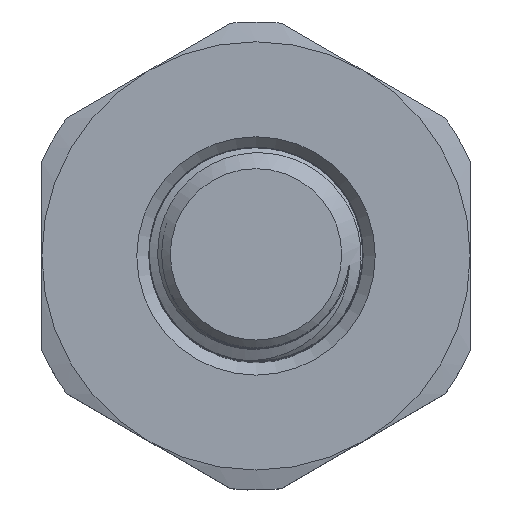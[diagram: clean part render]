
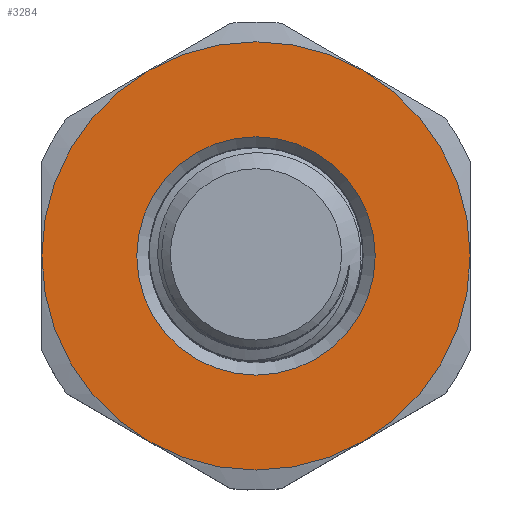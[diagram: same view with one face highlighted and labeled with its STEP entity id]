
A CAD part, top view. The second image highlights one B-rep face of the part: STEP entity #3284.
In plain terms, the highlighted planar face has unit normal (0, 0, 1).
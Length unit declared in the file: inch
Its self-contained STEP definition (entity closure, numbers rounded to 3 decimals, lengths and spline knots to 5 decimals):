
#68=FACE_BOUND('',#475,.T.);
#130=PLANE('',#3549);
#283=FACE_OUTER_BOUND('',#474,.T.);
#474=EDGE_LOOP('',(#2284,#2285,#2286,#2287,#2288,#2289,#2290));
#475=EDGE_LOOP('',(#2291));
#769=CIRCLE('',#3484,0.5);
#770=CIRCLE('',#3486,0.5);
#773=CIRCLE('',#3490,0.5);
#774=CIRCLE('',#3492,0.5);
#777=CIRCLE('',#3496,0.5);
#779=CIRCLE('',#3499,0.5);
#807=CIRCLE('',#3550,0.27825);
#1054=LINE('',#6013,#1146);
#1146=VECTOR('',#4049,0.3937);
#1290=VERTEX_POINT('',#5901);
#1294=VERTEX_POINT('',#5916);
#1296=VERTEX_POINT('',#5922);
#1297=VERTEX_POINT('',#5928);
#1299=VERTEX_POINT('',#5933);
#1303=VERTEX_POINT('',#5947);
#1305=VERTEX_POINT('',#5957);
#1346=VERTEX_POINT('',#6626);
#1639=EDGE_CURVE('',#1294,#1296,#769,.T.);
#1641=EDGE_CURVE('',#1299,#1297,#770,.T.);
#1647=EDGE_CURVE('',#1296,#1303,#773,.T.);
#1649=EDGE_CURVE('',#1305,#1299,#774,.T.);
#1654=EDGE_CURVE('',#1303,#1290,#777,.T.);
#1657=EDGE_CURVE('',#1290,#1305,#779,.T.);
#1670=EDGE_CURVE('',#1294,#1297,#1054,.T.);
#1719=EDGE_CURVE('',#1346,#1346,#807,.T.);
#2284=ORIENTED_EDGE('',*,*,#1639,.T.);
#2285=ORIENTED_EDGE('',*,*,#1647,.T.);
#2286=ORIENTED_EDGE('',*,*,#1654,.T.);
#2287=ORIENTED_EDGE('',*,*,#1657,.T.);
#2288=ORIENTED_EDGE('',*,*,#1649,.T.);
#2289=ORIENTED_EDGE('',*,*,#1641,.T.);
#2290=ORIENTED_EDGE('',*,*,#1670,.F.);
#2291=ORIENTED_EDGE('',*,*,#1719,.F.);
#3284=ADVANCED_FACE('',(#283,#68),#130,.T.);
#3484=AXIS2_PLACEMENT_3D('',#5926,#3998,#3999);
#3486=AXIS2_PLACEMENT_3D('',#5934,#4002,#4003);
#3490=AXIS2_PLACEMENT_3D('',#5951,#4010,#4011);
#3492=AXIS2_PLACEMENT_3D('',#5958,#4014,#4015);
#3496=AXIS2_PLACEMENT_3D('',#5970,#4022,#4023);
#3499=AXIS2_PLACEMENT_3D('',#5977,#4028,#4029);
#3549=AXIS2_PLACEMENT_3D('',#6625,#4141,#4142);
#3550=AXIS2_PLACEMENT_3D('',#6627,#4143,#4144);
#3998=DIRECTION('center_axis',(0.,0.,1.));
#3999=DIRECTION('ref_axis',(-1.,0.,0.));
#4002=DIRECTION('center_axis',(0.,0.,1.));
#4003=DIRECTION('ref_axis',(-1.,0.,0.));
#4010=DIRECTION('center_axis',(0.,0.,1.));
#4011=DIRECTION('ref_axis',(-1.,0.,0.));
#4014=DIRECTION('center_axis',(0.,0.,1.));
#4015=DIRECTION('ref_axis',(-1.,0.,0.));
#4022=DIRECTION('center_axis',(0.,0.,1.));
#4023=DIRECTION('ref_axis',(-1.,0.,0.));
#4028=DIRECTION('center_axis',(0.,0.,1.));
#4029=DIRECTION('ref_axis',(-1.,0.,0.));
#4049=DIRECTION('',(0.,1.,0.));
#4141=DIRECTION('center_axis',(0.,0.,1.));
#4142=DIRECTION('ref_axis',(1.,0.,0.));
#4143=DIRECTION('center_axis',(0.,0.,1.));
#4144=DIRECTION('ref_axis',(-1.,0.,0.));
#5901=CARTESIAN_POINT('',(0.5,0.00002,0.781));
#5916=CARTESIAN_POINT('',(-0.5,-0.00002,0.781));
#5922=CARTESIAN_POINT('',(-0.24998,-0.43302,0.781));
#5926=CARTESIAN_POINT('Origin',(0.,0.,0.781));
#5928=CARTESIAN_POINT('',(-0.5,0.,0.781));
#5933=CARTESIAN_POINT('',(-0.25002,0.433,0.781));
#5934=CARTESIAN_POINT('Origin',(0.,0.,0.781));
#5947=CARTESIAN_POINT('',(0.25002,-0.433,0.781));
#5951=CARTESIAN_POINT('Origin',(0.,0.,0.781));
#5957=CARTESIAN_POINT('',(0.24998,0.43302,0.781));
#5958=CARTESIAN_POINT('Origin',(0.,0.,0.781));
#5970=CARTESIAN_POINT('Origin',(0.,0.,0.781));
#5977=CARTESIAN_POINT('Origin',(0.,0.,0.781));
#6013=CARTESIAN_POINT('',(-0.49999,-0.2887,0.781));
#6625=CARTESIAN_POINT('Origin',(0.,0.,
0.781));
#6626=CARTESIAN_POINT('',(0.27825,0.,0.781));
#6627=CARTESIAN_POINT('Origin',(0.,0.,0.781));
